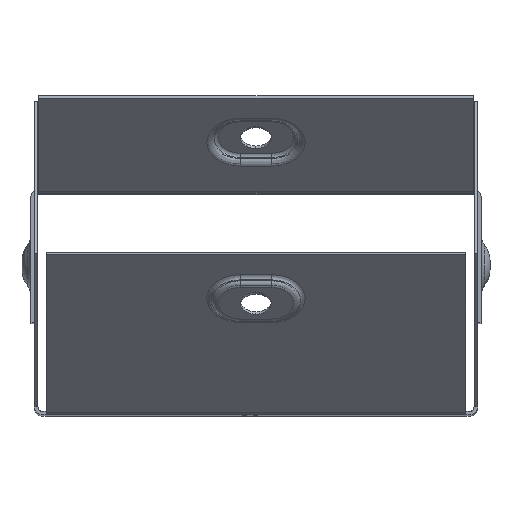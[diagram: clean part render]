
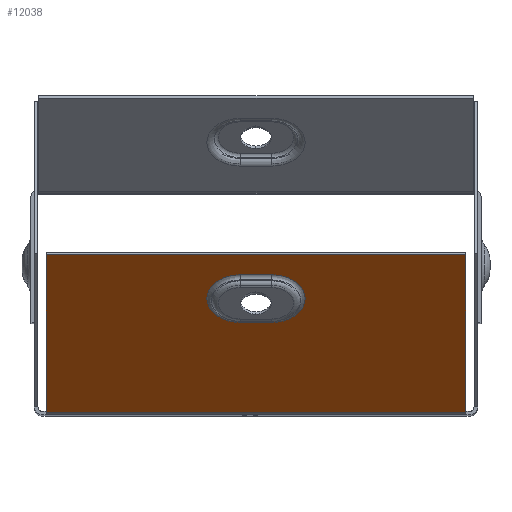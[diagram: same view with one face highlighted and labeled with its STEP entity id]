
A CAD part, top view. The second image highlights one B-rep face of the part: STEP entity #12038.
In plain terms, the highlighted planar face has unit normal (0, -0.707, 0.707).
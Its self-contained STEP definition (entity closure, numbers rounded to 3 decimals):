
#87 = LINE ( 'NONE', #2861, #8318 ) ;
#441 = VERTEX_POINT ( 'NONE', #7609 ) ;
#689 = DIRECTION ( 'NONE',  ( 0., 0.707, -0.707 ) ) ;
#716 = VECTOR ( 'NONE', #12138, 1000. ) ;
#855 = EDGE_LOOP ( 'NONE', ( #11026, #4911, #10338, #8330 ) ) ;
#899 = CARTESIAN_POINT ( 'NONE',  ( 47.299, -51.015, 83.335 ) ) ;
#1122 = EDGE_CURVE ( 'NONE', #9736, #12900, #4276, .T. ) ;
#1135 = VERTEX_POINT ( 'NONE', #2024 ) ;
#1570 = CARTESIAN_POINT ( 'NONE',  ( 47.299, -50.273, 84.077 ) ) ;
#1911 = VERTEX_POINT ( 'NONE', #11947 ) ;
#2024 = CARTESIAN_POINT ( 'NONE',  ( 3.5, -19.229, 115.121 ) ) ;
#2026 = EDGE_CURVE ( 'NONE', #6539, #1911, #13299, .T. ) ;
#2190 = VERTEX_POINT ( 'NONE', #8517 ) ;
#2491 = AXIS2_PLACEMENT_3D ( 'NONE', #11320, #11440, #12487 ) ;
#2634 = DIRECTION ( 'NONE',  ( 0., -0.707, -0.707 ) ) ;
#2828 = ORIENTED_EDGE ( 'NONE', *, *, #5330, .T. ) ;
#2861 = CARTESIAN_POINT ( 'NONE',  ( 3.5, -19.229, 115.121 ) ) ;
#2945 = DIRECTION ( 'NONE',  ( 0., 0.707, 0.707 ) ) ;
#2964 = CARTESIAN_POINT ( 'NONE',  ( 48.2, -50.273, 84.077 ) ) ;
#3110 = EDGE_CURVE ( 'NONE', #3896, #9736, #8542, .T. ) ;
#3236 = ORIENTED_EDGE ( 'NONE', *, *, #6154, .T. ) ;
#3896 = VERTEX_POINT ( 'NONE', #12966 ) ;
#3928 = FACE_BOUND ( 'NONE', #855, .T. ) ;
#4088 = ORIENTED_EDGE ( 'NONE', *, *, #11967, .F. ) ;
#4115 = PLANE ( 'NONE',  #2491 ) ;
#4270 = CIRCLE ( 'NONE', #12256, 7.598 ) ;
#4276 = CIRCLE ( 'NONE', #11756, 7.598 ) ;
#4910 = DIRECTION ( 'NONE',  ( 1., 0., 0. ) ) ;
#4911 = ORIENTED_EDGE ( 'NONE', *, *, #7076, .T. ) ;
#4937 = VECTOR ( 'NONE', #2634, 1000. ) ;
#5330 = EDGE_CURVE ( 'NONE', #1911, #441, #8812, .T. ) ;
#5827 = CARTESIAN_POINT ( 'NONE',  ( -47.299, -50.8, 83.55 ) ) ;
#5862 = DIRECTION ( 'NONE',  ( 0., 0.707, 0.707 ) ) ;
#6136 = DIRECTION ( 'NONE',  ( 0., 0.707, -0.707 ) ) ;
#6141 = ORIENTED_EDGE ( 'NONE', *, *, #2026, .T. ) ;
#6154 = EDGE_CURVE ( 'NONE', #441, #2190, #7196, .T. ) ;
#6530 = VECTOR ( 'NONE', #6751, 1000. ) ;
#6539 = VERTEX_POINT ( 'NONE', #1570 ) ;
#6751 = DIRECTION ( 'NONE',  ( -1., 0., 0. ) ) ;
#7076 = EDGE_CURVE ( 'NONE', #1135, #3896, #4270, .T. ) ;
#7196 = LINE ( 'NONE', #5827, #4937 ) ;
#7552 = VECTOR ( 'NONE', #12693, 1000. ) ;
#7609 = CARTESIAN_POINT ( 'NONE',  ( -47.299, -14.702, 119.648 ) ) ;
#7862 = LINE ( 'NONE', #2964, #716 ) ;
#8057 = CARTESIAN_POINT ( 'NONE',  ( 3.5, -24.602, 109.748 ) ) ;
#8318 = VECTOR ( 'NONE', #4910, 1000. ) ;
#8330 = ORIENTED_EDGE ( 'NONE', *, *, #1122, .T. ) ;
#8517 = CARTESIAN_POINT ( 'NONE',  ( -47.299, -50.273, 84.077 ) ) ;
#8531 = CARTESIAN_POINT ( 'NONE',  ( 3.5, -29.974, 104.376 ) ) ;
#8542 = LINE ( 'NONE', #8531, #7552 ) ;
#8790 = EDGE_CURVE ( 'NONE', #12900, #1135, #87, .T. ) ;
#8812 = LINE ( 'NONE', #11031, #6530 ) ;
#9736 = VERTEX_POINT ( 'NONE', #10426 ) ;
#10338 = ORIENTED_EDGE ( 'NONE', *, *, #3110, .T. ) ;
#10426 = CARTESIAN_POINT ( 'NONE',  ( -3.5, -29.974, 104.376 ) ) ;
#10850 = EDGE_LOOP ( 'NONE', ( #3236, #4088, #6141, #2828 ) ) ;
#10899 = CARTESIAN_POINT ( 'NONE',  ( -3.5, -19.229, 115.121 ) ) ;
#11026 = ORIENTED_EDGE ( 'NONE', *, *, #8790, .T. ) ;
#11031 = CARTESIAN_POINT ( 'NONE',  ( 48.2, -14.702, 119.648 ) ) ;
#11320 = CARTESIAN_POINT ( 'NONE',  ( 48.2, -50.8, 83.55 ) ) ;
#11335 = CARTESIAN_POINT ( 'NONE',  ( -3.5, -24.602, 109.748 ) ) ;
#11440 = DIRECTION ( 'NONE',  ( 0., 0.707, -0.707 ) ) ;
#11756 = AXIS2_PLACEMENT_3D ( 'NONE', #11335, #6136, #2945 ) ;
#11947 = CARTESIAN_POINT ( 'NONE',  ( 47.299, -14.702, 119.648 ) ) ;
#11967 = EDGE_CURVE ( 'NONE', #6539, #2190, #7862, .T. ) ;
#12038 = ADVANCED_FACE ( 'NONE', ( #3928, #12986 ), #4115, .F. ) ;
#12138 = DIRECTION ( 'NONE',  ( -1., 0., 0. ) ) ;
#12256 = AXIS2_PLACEMENT_3D ( 'NONE', #8057, #689, #5862 ) ;
#12315 = DIRECTION ( 'NONE',  ( 0., 0.707, 0.707 ) ) ;
#12485 = VECTOR ( 'NONE', #12315, 1000. ) ;
#12487 = DIRECTION ( 'NONE',  ( 0., 0.707, 0.707 ) ) ;
#12693 = DIRECTION ( 'NONE',  ( -1., 0., 0. ) ) ;
#12900 = VERTEX_POINT ( 'NONE', #10899 ) ;
#12966 = CARTESIAN_POINT ( 'NONE',  ( 3.5, -29.974, 104.376 ) ) ;
#12986 = FACE_OUTER_BOUND ( 'NONE', #10850, .T. ) ;
#13299 = LINE ( 'NONE', #899, #12485 ) ;
